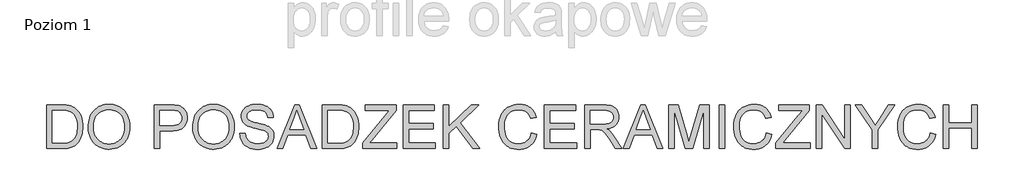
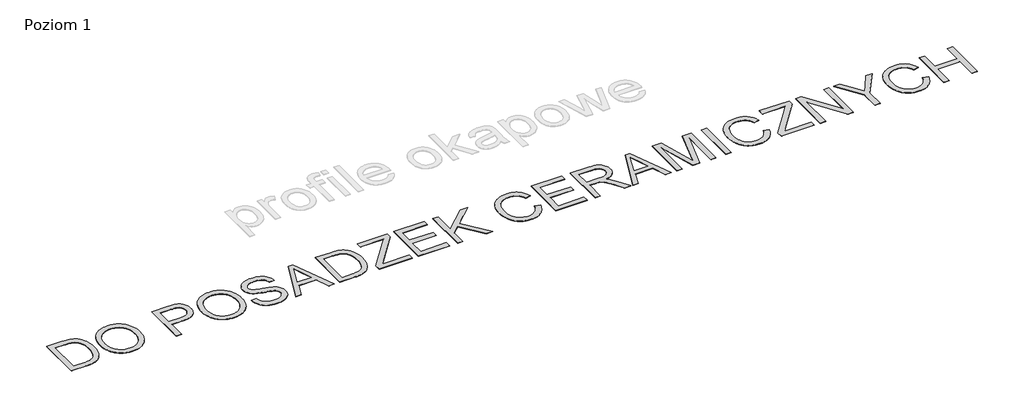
# One storey, part 2 of 4: 1 proxy.
"""IFC4 building model written with IfcOpenShell, lengths in millimetres."""

from ifc_helpers import new_model, si_unit, origin, origin_with_axes, place, context, project, spatial, polyline, outline, extrude, element, save

model = new_model("IFC4")

# Units and contexts
model_context = context("Model", 3, world=origin())
ifc_project = project(units=[si_unit("LENGTHUNIT", "METRE", prefix="MILLI")], contexts=[model_context])

# Site, building, storey
site = spatial("IfcSite", under=ifc_project)
building = spatial("IfcBuilding", under=site)
storey = spatial("IfcBuildingStorey", under=building, Name="Poziom 1", Elevation=0.0)

# Proxy
placement = place(None, origin())
element("IfcBuildingElementProxy", 1, Name="1500 mm Arial", ObjectType="1500 mm Arial", at=placement, inside=storey, context=model_context, shape_type="SweptSolid", body=[
    extrude(outline(polyline([(-116809.2331886, 69147.4976149), (-116809.2331886, 70654.3422672), (-116289.4159294, 70654.3422672), (-116134.077757, 70648.9160077), (-116072.0666482, 70642.1331835), (-116020.494191, 70632.6372295), (-115958.0922075, 70614.7259748), (-115900.3807195, 70590.7906525), (-115847.359727, 70560.8312625), (-115799.0292299, 70524.8478049), (-115743.1801445, 70470.9530926), (-115694.8266547, 70410.0686224), (-115653.9687606, 70342.1943943), (-115620.6064622, 70267.3304082), (-115594.6937742, 70186.1664431), (-115576.1847113, 70099.3922774), (-115565.0792736, 70007.0079114), (-115561.377461, 69909.0133449), (-115563.8836571, 69825.722562), (-115571.4022454, 69747.2832228), (-115583.9332258, 69673.6953275), (-115601.4765985, 69604.9588759), (-115622.9517099, 69541.5107281), (-115647.2779069, 69483.7877438), (-115674.4551893, 69431.789923), (-115704.4835571, 69385.5172658), (-115736.6732317, 69344.4179492), (-115770.3344342, 69307.9401501), (-115805.4671648, 69276.0838686), (-115842.0714233, 69248.8491046), (-115881.33133, 69225.4311163), (-115924.431005, 69205.0251619), (-115971.3704483, 69187.6312413), (-116022.1496599, 69173.2493546), (-116076.8146252, 69161.9829685), (-116135.4113292, 69153.9355498), (-116197.9397721, 69149.1070987), (-116264.3999538, 69147.4976149), (-116809.2331886, 69147.4976149)]), holes=[polyline([(-116620.8776071, 69335.8531965), (-116287.5765195, 69335.8531965), (-116214.4829655, 69337.5546507), (-116149.7127418, 69342.6590134), (-116093.2658481, 69351.1662845), (-116045.1422846, 69363.0764641), (-116003.4336634, 69378.090648), (-115966.2315967, 69395.9099322), (-115933.5360844, 69416.5343165), (-115905.3471265, 69439.9638011), (-115870.5937742, 69477.7291872), (-115839.9101166, 69521.4956483), (-115813.2961535, 69571.2631844), (-115790.751885, 69627.0317956), (-115772.8061414, 69688.916445), (-115759.9877531, 69757.0320957), (-115752.2967202, 69831.3787476), (-115749.7330425, 69911.9564009), (-115754.756931, 70021.309324), (-115769.8285965, 70117.2345542), (-115781.1323456, 70160.1617845), (-115794.948039, 70199.7320916), (-115811.2756766, 70235.9454755), (-115830.1152585, 70268.8019362), (-115872.4791695, 70326.0075865), (-115919.1886865, 70372.9125409), (-115970.2438097, 70409.5167994), (-116025.6445389, 70435.820362), (-116073.5151835, 70449.0181286), (-116133.9857865, 70458.4451047), (-116207.0563478, 70464.1012904), (-116292.7268674, 70465.9866856), (-116620.8776071, 70465.9866856), (-116620.8776071, 69335.8531965)])]), origin_with_axes(), (0.0, 0.0, 1.0), 10.0),
    extrude(outline(polyline([(-115373.0218795, 69881.0543133), (-115369.8833862, 69971.9614032), (-115360.4679064, 70057.7986194), (-115344.77544, 70138.5659618), (-115322.8059871, 70214.2634304), (-115294.5595477, 70284.8910254), (-115260.0361217, 70350.4487465), (-115219.2357092, 70410.936594), (-115172.1583101, 70466.3545676), (-115120.1202522, 70515.9324146), (-115064.4378634, 70558.899882), (-115005.1111435, 70595.2569699), (-114942.1400926, 70625.0036781), (-114875.5247107, 70648.1400067), (-114805.2649978, 70664.6659557), (-114731.3609538, 70674.5815251), (-114653.8125789, 70677.8867149), (-114602.4872924, 70676.3347127), (-114552.4380966, 70671.6787062), (-114503.6649914, 70663.9186954), (-114456.167977, 70653.0546802), (-114409.9470532, 70639.0866607), (-114365.00222, 70622.0146368), (-114321.3334776, 70601.8386087), (-114278.9408258, 70578.5585762), (-114238.4278211, 70552.5021842), (-114200.3980198, 70523.9970778), (-114164.851422, 70493.0432568), (-114131.7880277, 70459.6407212), (-114101.2078369, 70423.7894712), (-114073.1108495, 70385.4895066), (-114047.4970656, 70344.7408274), (-114024.3664851, 70301.5434338), (-113986.0607724, 70209.7108908), (-113958.699549, 70111.9002653), (-113942.282815, 70008.1115574), (-113936.8105703, 69898.3447671), (-113942.5702228, 69787.1294414), (-113959.8491802, 69681.9381834), (-113972.8083983, 69631.6015798), (-113988.6474427, 69582.7709931), (-114007.3663133, 69535.4464233), (-114028.9650101, 69489.6278704), (-114053.2049847, 69445.9303872), (-114079.8476885, 69404.9690263), (-114108.8931217, 69366.7437877), (-114140.3412841, 69331.2546715), (-114174.1921758, 69298.5016776), (-114210.4457968, 69268.4848061), (-114249.1021471, 69241.2040569), (-114290.1612267, 69216.65943), (-114376.3490803, 69176.1004401), (-114465.8708646, 69147.1297329), (-114558.7265794, 69129.7473087), (-114654.9162249, 69123.9531672), (-114707.1899571, 69125.5540287), (-114758.0611393, 69130.3566132), (-114807.5297713, 69138.3609207), (-114855.5958532, 69149.5669512), (-114902.2593851, 69163.9747046), (-114947.5203668, 69181.584181), (-114991.3787984, 69202.3953805), (-115033.8346799, 69226.4083029), (-115074.324692, 69253.1889625), (-115112.2855154, 69282.3033735), (-115147.71715, 69313.751536), (-115180.619596, 69347.5334498), (-115210.9928532, 69383.6491151), (-115238.8369217, 69422.0985317), (-115264.1518015, 69462.8816998), (-115286.9374926, 69505.9986192), (-115324.5994118, 69595.8652929), (-115351.5007827, 69688.3301331), (-115367.6416053, 69783.3931399), (-115373.0218795, 69881.0543133)]), holes=[polyline([(-115184.6662979, 69879.2149033), (-115182.312428, 69815.0252433), (-115175.2508181, 69754.3419586), (-115163.4814683, 69697.1650491), (-115147.0043787, 69643.4945149), (-115125.8195491, 69593.330356), (-115099.9269796, 69546.6725723), (-115069.3266702, 69503.5211639), (-115034.0186209, 69463.8761308), (-114995.1582111, 69428.3525256), (-114953.9008201, 69397.5654011), (-114910.2464481, 69371.5147574), (-114864.1950949, 69350.2005943), (-114815.7467606, 69333.6229119), (-114764.9014451, 69321.7817101), (-114711.6591485, 69314.6769891), (-114656.0198709, 69312.3087488), (-114599.3631695, 69314.6999817), (-114545.275894, 69321.8736806), (-114493.7580443, 69333.8298455), (-114444.8096204, 69350.5684763), (-114398.4306223, 69372.089573), (-114354.62105, 69398.3931356), (-114313.3809035, 69429.4791642), (-114274.7101829, 69465.3476588), (-114239.6608006, 69505.6134928), (-114209.2846693, 69549.8915398), (-114183.5817889, 69598.1817998), (-114162.5521596, 69650.4842728), (-114146.1957812, 69706.7989589), (-114134.5126538, 69767.1258579), (-114127.5027773, 69831.46497), (-114125.1661518, 69899.8162951), (-114129.1668685, 69986.0156451), (-114141.1690186, 70066.5588094), (-114161.1726021, 70141.445788), (-114189.177619, 70210.676581), (-114224.8736688, 70273.3429796), (-114267.9503512, 70328.5367752), (-114318.4076661, 70376.2579678), (-114376.2456135, 70416.5065573), (-114439.6707688, 70448.4548093), (-114506.8897071, 70471.2749893), (-114577.9024284, 70484.9670973), (-114652.7089329, 70489.5311333), (-114706.2070224, 70487.3324636), (-114757.8082204, 70480.7364544), (-114807.5125268, 70469.7431057), (-114855.3199417, 70454.3524175), (-114901.2304651, 70434.5643899), (-114945.2440969, 70410.3790228), (-114987.3608372, 70381.7963162), (-115027.580686, 70348.8162702), (-115064.3976263, 70310.6973725), (-115096.3056412, 70266.6981111), (-115123.3047308, 70216.8184859), (-115145.3948949, 70161.0584969), (-115162.5761337, 70099.4181442), (-115174.8484472, 70031.8974276), (-115182.2118352, 69958.4963474), (-115184.6662979, 69879.2149033)])]), origin_with_axes(), (0.0, 0.0, 1.0), 10.0),
    extrude(outline(polyline([(-113089.2104534, 69147.4976149), (-113089.2104534, 70654.3422672), (-112530.7655847, 70654.3422672), (-112400.7192994, 70650.7554177), (-112305.6218037, 70639.9948694), (-112253.2101157, 70628.6939943), (-112205.2360042, 70613.185469), (-112161.6994694, 70593.4692933), (-112122.6005111, 70569.5454673), (-112087.5252621, 70540.9196495), (-112056.0598552, 70507.0974986), (-112028.2042904, 70468.0790145), (-112003.9585676, 70423.8641972), (-111984.3228661, 70375.9130784), (-111970.2973651, 70325.6856897), (-111961.8820644, 70273.1820312), (-111959.0769642, 70218.4021029), (-111960.9709817, 70171.2269852), (-111966.6530341, 70125.9027737), (-111976.1231214, 70082.4294686), (-111989.3812436, 70040.8070697), (-112006.4274007, 70001.0355771), (-112027.2615928, 69963.1149909), (-112051.8838197, 69927.0453109), (-112080.2940816, 69892.8265372), (-112113.6477578, 69861.6140491), (-112153.1002277, 69834.5632262), (-112198.6514913, 69811.6740683), (-112250.3015486, 69792.9465755), (-112308.0503997, 69778.3807477), (-112371.8980444, 69767.976585), (-112441.8444828, 69761.7340874), (-112517.8897149, 69759.6532549), (-112900.8548719, 69759.6532549), (-112900.8548719, 69147.4976149), (-113089.2104534, 69147.4976149)]), holes=[polyline([(-112900.8548719, 69948.0088364), (-112506.853255, 69948.0088364), (-112416.2623137, 69952.3314499), (-112339.8348292, 69965.2992902), (-112306.9323833, 69975.0251705), (-112277.5708015, 69986.9123574), (-112251.750084, 70000.9608511), (-112229.4702307, 70017.1706515), (-112193.5787435, 70055.2694307), (-112167.941967, 70100.4039529), (-112152.5599011, 70152.5742184), (-112147.4325457, 70211.780227), (-112150.4560759, 70255.7421254), (-112159.5266663, 70296.3930859), (-112174.6443171, 70333.7331084), (-112195.8090281, 70367.7621929), (-112221.8941608, 70397.3766935), (-112251.7730766, 70421.4729642), (-112285.4457755, 70440.051005), (-112322.9122574, 70453.1108158), (-112395.5689515, 70462.7677182), (-112511.267839, 70465.9866856), (-112900.8548719, 70465.9866856), (-112900.8548719, 69948.0088364)])]), origin_with_axes(), (0.0, 0.0, 1.0), 10.0),
    extrude(outline(polyline([(-111770.7213827, 69881.0543133), (-111767.5828894, 69971.9614032), (-111758.1674096, 70057.7986194), (-111742.4749432, 70138.5659618), (-111720.5054903, 70214.2634304), (-111692.2590509, 70284.8910254), (-111657.7356249, 70350.4487465), (-111616.9352124, 70410.936594), (-111569.8578133, 70466.3545676), (-111517.8197555, 70515.9324146), (-111462.1373666, 70558.899882), (-111402.8106467, 70595.2569699), (-111339.8395958, 70625.0036781), (-111273.2242139, 70648.1400067), (-111202.964501, 70664.6659557), (-111129.0604571, 70674.5815251), (-111051.5120821, 70677.8867149), (-111000.1867956, 70676.3347127), (-110950.1375998, 70671.6787062), (-110901.3644947, 70663.9186954), (-110853.8674802, 70653.0546802), (-110807.6465564, 70639.0866607), (-110762.7017233, 70622.0146368), (-110719.0329808, 70601.8386087), (-110676.640329, 70578.5585762), (-110636.1273243, 70552.5021842), (-110598.0975231, 70523.9970778), (-110562.5509253, 70493.0432568), (-110529.487531, 70459.6407212), (-110498.9073401, 70423.7894712), (-110470.8103527, 70385.4895066), (-110445.1965688, 70344.7408274), (-110422.0659884, 70301.5434338), (-110383.7602756, 70209.7108908), (-110356.3990522, 70111.9002653), (-110339.9823182, 70008.1115574), (-110334.5100735, 69898.3447671), (-110340.269726, 69787.1294414), (-110357.5486835, 69681.9381834), (-110370.5079016, 69631.6015798), (-110386.3469459, 69582.7709931), (-110405.0658165, 69535.4464233), (-110426.6645133, 69489.6278704), (-110450.9044879, 69445.9303872), (-110477.5471918, 69404.9690263), (-110506.5926249, 69366.7437877), (-110538.0407873, 69331.2546715), (-110571.8916791, 69298.5016776), (-110608.1453001, 69268.4848061), (-110646.8016503, 69241.2040569), (-110687.8607299, 69216.65943), (-110774.0485836, 69176.1004401), (-110863.5703678, 69147.1297329), (-110956.4260827, 69129.7473087), (-111052.6157281, 69123.9531672), (-111104.8894604, 69125.5540287), (-111155.7606425, 69130.3566132), (-111205.2292745, 69138.3609207), (-111253.2953565, 69149.5669512), (-111299.9588883, 69163.9747046), (-111345.21987, 69181.584181), (-111389.0783016, 69202.3953805), (-111431.5341831, 69226.4083029), (-111472.0241952, 69253.1889625), (-111509.9850186, 69282.3033735), (-111545.4166533, 69313.751536), (-111578.3190992, 69347.5334498), (-111608.6923564, 69383.6491151), (-111636.5364249, 69422.0985317), (-111661.8513047, 69462.8816998), (-111684.6369958, 69505.9986192), (-111722.2989151, 69595.8652929), (-111749.200286, 69688.3301331), (-111765.3411085, 69783.3931399), (-111770.7213827, 69881.0543133)]), holes=[polyline([(-111582.3658012, 69879.2149033), (-111580.0119312, 69815.0252433), (-111572.9503213, 69754.3419586), (-111561.1809716, 69697.1650491), (-111544.7038819, 69643.4945149), (-111523.5190523, 69593.330356), (-111497.6264828, 69546.6725723), (-111467.0261734, 69503.5211639), (-111431.7181241, 69463.8761308), (-111392.8577143, 69428.3525256), (-111351.6003234, 69397.5654011), (-111307.9459513, 69371.5147574), (-111261.8945981, 69350.2005943), (-111213.4462638, 69333.6229119), (-111162.6009483, 69321.7817101), (-111109.3586518, 69314.6769891), (-111053.7193741, 69312.3087488), (-110997.0626728, 69314.6999817), (-110942.9753972, 69321.8736806), (-110891.4575475, 69333.8298455), (-110842.5091236, 69350.5684763), (-110796.1301255, 69372.089573), (-110752.3205532, 69398.3931356), (-110711.0804068, 69429.4791642), (-110672.4096861, 69465.3476588), (-110637.3603038, 69505.6134928), (-110606.9841725, 69549.8915398), (-110581.2812922, 69598.1817998), (-110560.2516628, 69650.4842728), (-110543.8952844, 69706.7989589), (-110532.212157, 69767.1258579), (-110525.2022805, 69831.46497), (-110522.865655, 69899.8162951), (-110526.8663717, 69986.0156451), (-110538.8685218, 70066.5588094), (-110558.8721053, 70141.445788), (-110586.8771222, 70210.676581), (-110622.5731721, 70273.3429796), (-110665.6498544, 70328.5367752), (-110716.1071693, 70376.2579678), (-110773.9451168, 70416.5065573), (-110837.370272, 70448.4548093), (-110904.5892103, 70471.2749893), (-110975.6019317, 70484.9670973), (-111050.4084361, 70489.5311333), (-111103.9065256, 70487.3324636), (-111155.5077236, 70480.7364544), (-111205.2120301, 70469.7431057), (-111253.019445, 70454.3524175), (-111298.9299683, 70434.5643899), (-111342.9436002, 70410.3790228), (-111385.0603405, 70381.7963162), (-111425.2801892, 70348.8162702), (-111462.0971295, 70310.6973725), (-111494.0051444, 70266.6981111), (-111521.004234, 70216.8184859), (-111543.0943982, 70161.0584969), (-111560.275637, 70099.4181442), (-111572.5479504, 70031.8974276), (-111579.9113385, 69958.4963474), (-111582.3658012, 69879.2149033)])]), origin_with_axes(), (0.0, 0.0, 1.0), 10.0),
    extrude(outline(polyline([(-110146.154492, 69665.4754641), (-109957.7989105, 69665.4754641), (-109949.1766762, 69610.6495505), (-109936.1858432, 69560.9509923), (-109918.8264116, 69516.3797893), (-109897.0983813, 69476.9359416), (-109869.8981062, 69441.8262037), (-109836.1219405, 69410.25733), (-109795.7698842, 69382.2293205), (-109748.8419372, 69357.7421752), (-109697.0625464, 69337.8650511), (-109642.1561586, 69323.6671054), (-109584.1227739, 69315.1483379), (-109522.9623922, 69312.3087488), (-109468.8607462, 69314.4585592), (-109418.024053, 69320.9079904), (-109370.4523125, 69331.6570425), (-109326.1455247, 69346.7057153), (-109286.1958393, 69365.5136823), (-109251.695406, 69387.5406168), (-109222.6442247, 69412.7865187), (-109199.0422954, 69441.2513881), (-109180.7746551, 69471.7051195), (-109167.7263406, 69502.9176075), (-109159.8973519, 69534.8888522), (-109157.2876889, 69567.6188534), (-109159.242062, 69600.2108989), (-109165.1051813, 69630.6646303), (-109174.8770468, 69658.9800477), (-109188.5576585, 69685.1571509), (-109208.2853305, 69709.3338957), (-109236.1983769, 69731.648238), (-109272.2967977, 69752.1001777), (-109316.5805929, 69770.6897148), (-109416.0466873, 69800.2582301), (-109590.8366203, 69842.6106448), (-109688.9576462, 69866.6954192), (-109770.8688717, 69890.2053779), (-109836.5702967, 69913.1405211), (-109886.0619214, 69935.5008486), (-109936.3582879, 69965.5062238), (-109979.8258449, 69998.8685223), (-110016.4645924, 70035.5877439), (-110046.2745303, 70075.6638888), (-110069.3706218, 70118.6830896), (-110085.86783, 70164.2314791), (-110095.766155, 70212.3090573), (-110099.0655966, 70262.9158243), (-110094.9844057, 70319.0063323), (-110082.7408331, 70373.2344376), (-110062.3348786, 70425.6001404), (-110033.7665425, 70476.1034405), (-109997.3577212, 70522.6864981), (-109953.4303118, 70563.2914734), (-109901.984314, 70597.9183662), (-109843.019728, 70626.5671765), (-109778.5254157, 70649.0194746), (-109710.4902392, 70665.0568303), (-109638.9141985, 70674.6792437), (-109563.7972936, 70677.8867149), (-109481.8515792, 70674.5297917), (-109404.8722717, 70664.459022), (-109332.8593711, 70647.674406), (-109265.8128775, 70624.1759436), (-109204.9743926, 70594.1705683), (-109151.585518, 70557.8652139), (-109105.6462539, 70515.2598804), (-109067.1566001, 70466.3545676), (-109036.4154609, 70412.5748185), (-109013.7217403, 70355.3461756), (-108999.0754384, 70294.668639), (-108992.4765551, 70230.5422087), (-109180.8321366, 70230.5422087), (-109193.432095, 70290.6449297), (-109215.4130442, 70342.9301583), (-109246.7749843, 70387.3978944), (-109287.5179152, 70424.0481382), (-109338.4005937, 70452.6969486), (-109400.1817763, 70473.1603845), (-109472.8614629, 70485.4384461), (-109556.4396537, 70489.5311333), (-109642.684989, 70485.4844314), (-109716.3763511, 70473.3443255), (-109777.5137402, 70453.1108158), (-109803.3746948, 70439.9590345), (-109826.0971562, 70424.7839022), (-109863.1152819, 70390.731825), (-109889.5568003, 70353.3228246), (-109905.4217114, 70312.556901), (-109910.7100151, 70268.4340542), (-109906.9622172, 70230.4732309), (-109895.7188238, 70196.0532717), (-109876.9798346, 70165.1741767), (-109850.7452499, 70137.8359459), (-109809.4504959, 70111.9462505), (-109744.4273533, 70085.7806436), (-109655.6758219, 70059.3391252), (-109543.1959019, 70032.6216953), (-109429.1064981, 70006.5710515), (-109335.5265156, 69982.1298915), (-109262.4559543, 69959.2982152), (-109209.8948143, 69938.0760226), (-109152.1488373, 69905.9093406), (-109102.5192569, 69869.741942), (-109061.006073, 69829.5738266), (-109027.6092857, 69785.4049946), (-109001.9380202, 69737.4653721), (-108983.601402, 69685.9848854), (-108972.5994311, 69630.9635345), (-108968.9321074, 69572.4013194), (-108973.1512541, 69513.4827186), (-108985.8086939, 69456.2885646), (-109006.9044271, 69400.8188575), (-109036.4384535, 69347.0735973), (-109073.8934392, 69297.1336165), (-109118.75205, 69253.0797475), (-109171.0142859, 69214.9119905), (-109230.680147, 69182.6303455), (-109296.0136901, 69156.95908), (-109365.278972, 69138.6224618), (-109438.4759927, 69127.6204909), (-109515.6047523, 69123.9531672), (-109611.9553461, 69127.9078987), (-109700.1435581, 69139.772093), (-109780.1693883, 69159.5457503), (-109852.0328368, 69187.2288704), (-109916.1707634, 69222.8674387), (-109973.020028, 69266.5074404), (-110022.5806305, 69318.1488754), (-110064.8525711, 69377.7917439), (-110098.9046482, 69443.5046653), (-110123.8056608, 69513.3562591), (-110139.5556087, 69587.3465254), (-110146.154492, 69665.4754641)])), origin_with_axes(), (0.0, 0.0, 1.0), 10.0),
    extrude(outline(polyline([(-108861.8784468, 69147.4976149), (-108260.3913847, 70654.3422672), (-108099.9948348, 70654.3422672), (-107498.5077727, 69147.4976149), (-107697.5319321, 69147.4976149), (-107870.0685878, 69618.3865688), (-108490.6855137, 69618.3865688), (-108662.8542874, 69147.4976149), (-108861.8784468, 69147.4976149)]), holes=[polyline([(-108421.5236986, 69806.7421503), (-107938.8625209, 69806.7421503), (-108074.6109771, 70177.1993194), (-108180.1931098, 70465.9866856), (-108274.0030185, 70209.572935), (-108421.5236986, 69806.7421503)])]), origin_with_axes(), (0.0, 0.0, 1.0), 10.0),
    extrude(outline(polyline([(-107297.2763213, 69147.4976149), (-107297.2763213, 70654.3422672), (-106777.4590622, 70654.3422672), (-106622.1208897, 70648.9160077), (-106560.1097809, 70642.1331835), (-106508.5373237, 70632.6372295), (-106446.1353402, 70614.7259748), (-106388.4238523, 70590.7906525), (-106335.4028597, 70560.8312625), (-106287.0723626, 70524.8478049), (-106231.2232772, 70470.9530926), (-106182.8697874, 70410.0686224), (-106142.0118934, 70342.1943943), (-106108.6495949, 70267.3304082), (-106082.7369069, 70186.1664431), (-106064.227844, 70099.3922774), (-106053.1224063, 70007.0079114), (-106049.4205937, 69909.0133449), (-106051.9267898, 69825.722562), (-106059.4453781, 69747.2832228), (-106071.9763585, 69673.6953275), (-106089.5197312, 69604.9588759), (-106110.9948426, 69541.5107281), (-106135.3210396, 69483.7877438), (-106162.498322, 69431.789923), (-106192.5266898, 69385.5172658), (-106224.7163644, 69344.4179492), (-106258.377567, 69307.9401501), (-106293.5102975, 69276.0838686), (-106330.114556, 69248.8491046), (-106369.3744627, 69225.4311163), (-106412.4741377, 69205.0251619), (-106459.413581, 69187.6312413), (-106510.1927927, 69173.2493546), (-106564.8577579, 69161.9829685), (-106623.4544619, 69153.9355498), (-106685.9829048, 69149.1070987), (-106752.4430865, 69147.4976149), (-107297.2763213, 69147.4976149)]), holes=[polyline([(-107108.9207398, 69335.8531965), (-106775.6196522, 69335.8531965), (-106702.5260983, 69337.5546507), (-106637.7558745, 69342.6590134), (-106581.3089808, 69351.1662845), (-106533.1854174, 69363.0764641), (-106491.4767962, 69378.090648), (-106454.2747294, 69395.9099322), (-106421.5792171, 69416.5343165), (-106393.3902592, 69439.9638011), (-106358.636907, 69477.7291872), (-106327.9532493, 69521.4956483), (-106301.3392862, 69571.2631844), (-106278.7950177, 69627.0317956), (-106260.8492741, 69688.916445), (-106248.0308858, 69757.0320957), (-106240.3398529, 69831.3787476), (-106237.7761752, 69911.9564009), (-106242.8000637, 70021.309324), (-106257.8717292, 70117.2345542), (-106269.1754783, 70160.1617845), (-106282.9911717, 70199.7320916), (-106299.3188093, 70235.9454755), (-106318.1583912, 70268.8019362), (-106360.5223022, 70326.0075865), (-106407.2318193, 70372.9125409), (-106458.2869424, 70409.5167994), (-106513.6876716, 70435.820362), (-106561.5583162, 70449.0181286), (-106622.0289192, 70458.4451047), (-106695.0994805, 70464.1012904), (-106780.7700001, 70465.9866856), (-107108.9207398, 70465.9866856), (-107108.9207398, 69335.8531965)])]), origin_with_axes(), (0.0, 0.0, 1.0), 10.0),
    extrude(outline(polyline([(-105908.1539075, 69147.4976149), (-105908.1539075, 69342.8429544), (-105137.4411277, 70286.460272), (-104991.0240936, 70465.9866856), (-105813.9761168, 70465.9866856), (-105813.9761168, 70654.3422672), (-104754.4759707, 70654.3422672), (-104754.4759707, 70465.9866856), (-105598.0293856, 69433.3419252), (-105677.4918966, 69335.8531965), (-104730.931523, 69335.8531965), (-104730.931523, 69147.4976149), (-105908.1539075, 69147.4976149)])), origin_with_axes(), (0.0, 0.0, 1.0), 10.0),
    extrude(outline(polyline([(-104519.0314938, 69147.4976149), (-104519.0314938, 70654.3422672), (-103435.9869, 70654.3422672), (-103435.9869, 70465.9866856), (-104330.6759122, 70465.9866856), (-104330.6759122, 70018.6421795), (-103483.0757953, 70018.6421795), (-103483.0757953, 69830.286598), (-104330.6759122, 69830.286598), (-104330.6759122, 69335.8531965), (-103412.4424523, 69335.8531965), (-103412.4424523, 69147.4976149), (-104519.0314938, 69147.4976149)])), origin_with_axes(), (0.0, 0.0, 1.0), 10.0),
    extrude(outline(polyline([(-103129.90908, 69147.4976149), (-103129.90908, 70654.3422672), (-102941.5534984, 70654.3422672), (-102941.5534984, 69916.7388668), (-102169.0013086, 70654.3422672), (-101905.5978, 70654.3422672), (-102554.1737575, 70034.8289873), (-101882.0533523, 69147.4976149), (-102112.3474813, 69147.4976149), (-102687.7149218, 69907.541817), (-102941.5534984, 69665.4754641), (-102941.5534984, 69147.4976149), (-103129.90908, 69147.4976149)])), origin_with_axes(), (0.0, 0.0, 1.0), 10.0),
    extrude(outline(polyline([(-100092.6753278, 69683.1337999), (-99904.3197463, 69634.5733765), (-99921.4090146, 69574.1573811), (-99941.5907909, 69517.43745), (-99964.8650753, 69464.4135834), (-99991.2318676, 69415.0857812), (-100020.691168, 69369.4540434), (-100053.2429764, 69327.51837), (-100088.8872929, 69289.2787611), (-100127.6241173, 69254.7352165), (-100169.0338344, 69224.0831737), (-100212.6968287, 69197.51807), (-100258.6131002, 69175.0399052), (-100306.782649, 69156.6486796), (-100357.205475, 69142.3443929), (-100409.8815781, 69132.1270453), (-100464.8109585, 69125.9966368), (-100521.9936162, 69123.9531672), (-100580.8288687, 69125.4994212), (-100636.8532728, 69130.1381833), (-100690.0668286, 69137.8694533), (-100740.4695361, 69148.6932314), (-100788.0613951, 69162.6095175), (-100832.8424058, 69179.6183116), (-100874.8125681, 69199.7196138), (-100913.971882, 69222.9134239), (-100950.5991332, 69249.0387938), (-100984.9731071, 69277.9347748), (-101017.0938038, 69309.6013672), (-101046.9612233, 69344.0385709), (-101074.5753655, 69381.2463858), (-101099.9362306, 69421.224812), (-101123.0438184, 69463.9738494), (-101143.898129, 69509.4934982), (-101178.421555, 69605.0278538), (-101203.081145, 69704.0111031), (-101217.876899, 69806.4432462), (-101222.808817, 69912.3242829), (-101217.2331055, 70025.9308415), (-101200.505971, 70132.0418045), (-101187.9606202, 70182.2864376), (-101172.6274136, 70230.6571719), (-101154.5063512, 70277.1540071), (-101133.5974331, 70321.7769435), (-101110.1190893, 70364.1494768), (-101084.2897495, 70403.8951026), (-101056.1094138, 70441.0138211), (-101025.5780823, 70475.5056323), (-100992.6957549, 70507.370536), (-100957.4624316, 70536.6085324), (-100919.8781125, 70563.2196214), (-100879.9427975, 70587.2038031), (-100795.6518353, 70626.877577), (-100707.2222007, 70655.2159869), (-100614.6538937, 70672.2190329), (-100517.9469142, 70677.8867149), (-100462.9629263, 70676.053053), (-100410.2149712, 70670.5520676), (-100359.7030488, 70661.3837585), (-100311.4271592, 70648.5481257), (-100265.3873023, 70632.0451694), (-100221.5834782, 70611.8748894), (-100180.0156868, 70588.0372857), (-100140.6839282, 70560.5323584), (-100103.9215953, 70529.6992487), (-100070.0620814, 70495.8770977), (-100039.1053863, 70459.0659056), (-100011.0515101, 70419.2656723), (-99985.9004528, 70376.4763977), (-99963.6522143, 70330.6980819), (-99944.3067947, 70281.9307249), (-99927.864194, 70230.1743267), (-100116.2197755, 70185.2927233), (-100145.8802613, 70259.3634638), (-100181.5188296, 70322.6506633), (-100223.1354803, 70375.1543218), (-100270.7302135, 70416.8744393), (-100324.5789405, 70448.6617429), (-100384.957573, 70471.3669598), (-100451.8661108, 70484.99009), (-100525.3045541, 70489.5311333), (-100609.8024499, 70484.4957485), (-100687.0806615, 70469.3895941), (-100757.139189, 70444.2126701), (-100819.9780323, 70408.9649764), (-100874.8039459, 70365.2330042), (-100920.8236842, 70314.6032446), (-100958.0372473, 70257.0756976), (-100986.4446351, 70192.6503632), (-101007.4483977, 70124.2473047), (-101022.4510854, 70054.7865855), (-101031.4526979, 69984.2682056), (-101034.4532354, 69912.6921649), (-101030.9008749, 69822.7450171), (-101020.2437934, 69738.6839812), (-101002.4819908, 69660.5090572), (-100977.6154672, 69588.2202451), (-100945.2418516, 69523.2545841), (-100904.9587731, 69467.049113), (-100856.7662318, 69419.6038319), (-100800.6642275, 69380.9187409), (-100739.3773864, 69350.9018693), (-100675.6303344, 69329.4612468), (-100609.4230716, 69316.5968733), (-100540.7555979, 69312.3087488), (-100458.8673651, 69318.1488754), (-100420.3805854, 69325.4490338), (-100383.5320302, 69335.6692555), (-100348.3216996, 69348.8095405), (-100314.7495934, 69364.8698888), (-100282.8157118, 69383.8503005), (-100252.5200547, 69405.7507755), (-100224.2305041, 69430.5253287), (-100198.314942, 69458.1279746), (-100174.7733684, 69488.5587134), (-100153.6057832, 69521.817545), (-100134.8121866, 69557.9044695), (-100118.3925785, 69596.8194868), (-100092.6753278, 69683.1337999)])), origin_with_axes(), (0.0, 0.0, 1.0), 10.0),
    extrude(outline(polyline([(-99645.3308217, 69147.4976149), (-99645.3308217, 70654.3422672), (-98562.2862279, 70654.3422672), (-98562.2862279, 70465.9866856), (-99456.9752401, 70465.9866856), (-99456.9752401, 70018.6421795), (-98609.3751232, 70018.6421795), (-98609.3751232, 69830.286598), (-99456.9752401, 69830.286598), (-99456.9752401, 69335.8531965), (-98538.7417802, 69335.8531965), (-98538.7417802, 69147.4976149), (-99645.3308217, 69147.4976149)])), origin_with_axes(), (0.0, 0.0, 1.0), 10.0),
    extrude(outline(polyline([(-98256.2084079, 69147.4976149), (-98256.2084079, 70654.3422672), (-97606.8966864, 70654.3422672), (-97513.6960822, 70651.8015821), (-97432.3826649, 70644.1795271), (-97362.9564346, 70631.4761019), (-97305.4173913, 70613.6913067), (-97256.4201081, 70589.4570803), (-97212.6191581, 70557.4053614), (-97174.0145412, 70517.5361502), (-97140.6062575, 70469.8494466), (-97113.647405, 70416.9089282), (-97094.3910819, 70361.2782728), (-97082.8372879, 70302.9574802), (-97078.9860233, 70241.9465506), (-97080.5811366, 70202.4567177), (-97085.3664767, 70164.5533758), (-97093.3420434, 70128.2365251), (-97104.5078367, 70093.5061655), (-97118.8638568, 70060.362297), (-97136.4101035, 70028.8049196), (-97157.1465769, 69998.8340333), (-97181.073277, 69970.4496381), (-97208.3339076, 69944.1173347), (-97239.0721728, 69920.3027237), (-97273.2880724, 69899.005805), (-97310.9816065, 69880.2265788), (-97352.1527751, 69863.965045), (-97396.8015782, 69850.2212036), (-97496.5320878, 69830.286598), (-97434.4520011, 69789.727608), (-97389.4784272, 69749.720441), (-97312.3151787, 69658.2097947), (-97236.8073992, 69555.8466296), (-96985.5439965, 69147.4976149), (-97204.4337837, 69147.4976149), (-97400.5148871, 69459.8294288), (-97478.9657226, 69579.0231953), (-97542.1494552, 69666.5791101), (-97594.8025658, 69726.8657721), (-97618.956318, 69748.4213577), (-97641.6615349, 69764.2517798), (-97686.0373006, 69786.1867438), (-97731.2408008, 69800.1202744), (-97775.2946697, 69805.0866813), (-97840.5017533, 69806.7421503), (-98067.8528263, 69806.7421503), (-98067.8528263, 69147.4976149), (-98256.2084079, 69147.4976149)]), holes=[polyline([(-98067.8528263, 69995.0977318), (-97646.2600599, 69995.0977318), (-97582.3290669, 69996.7646971), (-97525.1808982, 70001.765593), (-97474.8155538, 70010.1004194), (-97431.2330337, 70021.7691765), (-97393.4561513, 70037.1052571), (-97360.5077201, 70056.4420545), (-97332.3877401, 70079.7795686), (-97309.0962113, 70107.1177993), (-97290.828571, 70137.1116783), (-97277.7802564, 70168.4161368), (-97269.9512677, 70201.0311749), (-97267.3416048, 70234.9567927), (-97272.3195081, 70283.1263414), (-97287.2532178, 70326.835321), (-97312.1427341, 70366.0837313), (-97346.9880568, 70400.8715725), (-97368.3453311, 70416.1329271), (-97392.5939279, 70429.3594345), (-97449.7650892, 70449.7079074), (-97518.5015407, 70461.9169911), (-97598.8032825, 70465.9866856), (-98067.8528263, 70465.9866856), (-98067.8528263, 69995.0977318)])]), origin_with_axes(), (0.0, 0.0, 1.0), 10.0),
    extrude(outline(polyline([(-96924.8434673, 69147.4976149), (-96323.3564052, 70654.3422672), (-96162.9598553, 70654.3422672), (-95561.4727932, 69147.4976149), (-95760.4969526, 69147.4976149), (-95933.0336083, 69618.3865688), (-96553.6505342, 69618.3865688), (-96725.8193079, 69147.4976149), (-96924.8434673, 69147.4976149)]), holes=[polyline([(-96484.4887191, 69806.7421503), (-96001.8275414, 69806.7421503), (-96137.5759976, 70177.1993194), (-96243.1581303, 70465.9866856), (-96336.968039, 70209.572935), (-96484.4887191, 69806.7421503)])]), origin_with_axes(), (0.0, 0.0, 1.0), 10.0),
    extrude(outline(polyline([(-95360.2413418, 69147.4976149), (-95360.2413418, 70654.3422672), (-95036.1373041, 70654.3422672), (-94727.8521921, 69592.2669471), (-94665.6801349, 69370.434104), (-94598.3577298, 69610.6610469), (-94295.2229658, 70654.3422672), (-93971.1189281, 70654.3422672), (-93971.1189281, 69147.4976149), (-94159.4745096, 69147.4976149), (-94159.4745096, 70465.9866856), (-94538.0250826, 69147.4976149), (-94793.3351873, 69147.4976149), (-95171.8857603, 70465.9866856), (-95171.8857603, 69147.4976149), (-95360.2413418, 69147.4976149)])), origin_with_axes(), (0.0, 0.0, 1.0), 10.0),
    extrude(outline(polyline([(-93617.9522127, 69147.4976149), (-93617.9522127, 70654.3422672), (-93429.5966312, 70654.3422672), (-93429.5966312, 69147.4976149), (-93617.9522127, 69147.4976149)])), origin_with_axes(), (0.0, 0.0, 1.0), 10.0),
    extrude(outline(polyline([(-91993.385322, 69683.1337999), (-91805.0297405, 69634.5733765), (-91822.1190088, 69574.1573811), (-91842.3007851, 69517.43745), (-91865.5750694, 69464.4135834), (-91891.9418618, 69415.0857812), (-91921.4011622, 69369.4540434), (-91953.9529706, 69327.51837), (-91989.5972871, 69289.2787611), (-92028.3341115, 69254.7352165), (-92069.7438286, 69224.0831737), (-92113.4068229, 69197.51807), (-92159.3230944, 69175.0399052), (-92207.4926432, 69156.6486796), (-92257.9154691, 69142.3443929), (-92310.5915723, 69132.1270453), (-92365.5209527, 69125.9966368), (-92422.7036104, 69123.9531672), (-92481.5388629, 69125.4994212), (-92537.563267, 69130.1381833), (-92590.7768228, 69137.8694533), (-92641.1795302, 69148.6932314), (-92688.7713893, 69162.6095175), (-92733.5524, 69179.6183116), (-92775.5225623, 69199.7196138), (-92814.6818762, 69222.9134239), (-92851.3091274, 69249.0387938), (-92885.6831013, 69277.9347748), (-92917.803798, 69309.6013672), (-92947.6712175, 69344.0385709), (-92975.2853597, 69381.2463858), (-93000.6462248, 69421.224812), (-93023.7538126, 69463.9738494), (-93044.6081232, 69509.4934982), (-93079.1315492, 69605.0278538), (-93103.7911392, 69704.0111031), (-93118.5868932, 69806.4432462), (-93123.5188112, 69912.3242829), (-93117.9430997, 70025.9308415), (-93101.2159652, 70132.0418045), (-93088.6706144, 70182.2864376), (-93073.3374078, 70230.6571719), (-93055.2163454, 70277.1540071), (-93034.3074273, 70321.7769435), (-93010.8290834, 70364.1494768), (-92984.9997437, 70403.8951026), (-92956.819408, 70441.0138211), (-92926.2880765, 70475.5056323), (-92893.4057491, 70507.370536), (-92858.1724258, 70536.6085324), (-92820.5881067, 70563.2196214), (-92780.6527917, 70587.2038031), (-92696.3618295, 70626.877577), (-92607.9321949, 70655.2159869), (-92515.3638879, 70672.2190329), (-92418.6569084, 70677.8867149), (-92363.6729205, 70676.053053), (-92310.9249654, 70670.5520676), (-92260.413043, 70661.3837585), (-92212.1371534, 70648.5481257), (-92166.0972965, 70632.0451694), (-92122.2934724, 70611.8748894), (-92080.725681, 70588.0372857), (-92041.3939224, 70560.5323584), (-92004.6315895, 70529.6992487), (-91970.7720756, 70495.8770977), (-91939.8153805, 70459.0659056), (-91911.7615043, 70419.2656723), (-91886.610447, 70376.4763977), (-91864.3622085, 70330.6980819), (-91845.0167889, 70281.9307249), (-91828.5741881, 70230.1743267), (-92016.9297697, 70185.2927233), (-92046.5902555, 70259.3634638), (-92082.2288238, 70322.6506633), (-92123.8454745, 70375.1543218), (-92171.4402076, 70416.8744393), (-92225.2889347, 70448.6617429), (-92285.6675671, 70471.3669598), (-92352.576105, 70484.99009), (-92426.0145483, 70489.5311333), (-92510.5124441, 70484.4957485), (-92587.7906557, 70469.3895941), (-92657.8491831, 70444.2126701), (-92720.6880264, 70408.9649764), (-92775.51394, 70365.2330042), (-92821.5336784, 70314.6032446), (-92858.7472414, 70257.0756976), (-92887.1546293, 70192.6503632), (-92908.1583919, 70124.2473047), (-92923.1610795, 70054.7865855), (-92932.1626921, 69984.2682056), (-92935.1632296, 69912.6921649), (-92931.6108691, 69822.7450171), (-92920.9537876, 69738.6839812), (-92903.191985, 69660.5090572), (-92878.3254614, 69588.2202451), (-92845.9518458, 69523.2545841), (-92805.6687673, 69467.049113), (-92757.476226, 69419.6038319), (-92701.3742217, 69380.9187409), (-92640.0873806, 69350.9018693), (-92576.3403286, 69329.4612468), (-92510.1330658, 69316.5968733), (-92441.4655921, 69312.3087488), (-92359.5773592, 69318.1488754), (-92321.0905796, 69325.4490338), (-92284.2420244, 69335.6692555), (-92249.0316938, 69348.8095405), (-92215.4595876, 69364.8698888), (-92183.525706, 69383.8503005), (-92153.2300489, 69405.7507755), (-92124.9404983, 69430.5253287), (-92099.0249362, 69458.1279746), (-92075.4833625, 69488.5587134), (-92054.3157774, 69521.817545), (-92035.5221808, 69557.9044695), (-92019.1025727, 69596.8194868), (-91993.385322, 69683.1337999)])), origin_with_axes(), (0.0, 0.0, 1.0), 10.0),
    extrude(outline(polyline([(-91663.7630543, 69147.4976149), (-91663.7630543, 69342.8429544), (-90893.0502744, 70286.460272), (-90746.6332403, 70465.9866856), (-91569.5852635, 70465.9866856), (-91569.5852635, 70654.3422672), (-90510.0851174, 70654.3422672), (-90510.0851174, 70465.9866856), (-91353.6385324, 69433.3419252), (-91433.1010433, 69335.8531965), (-90486.5406697, 69335.8531965), (-90486.5406697, 69147.4976149), (-91663.7630543, 69147.4976149)])), origin_with_axes(), (0.0, 0.0, 1.0), 10.0),
    extrude(outline(polyline([(-90274.6406405, 69147.4976149), (-90274.6406405, 70654.3422672), (-90073.0413072, 70654.3422672), (-89285.7738375, 69460.5651928), (-89285.7738375, 70654.3422672), (-89097.4182559, 70654.3422672), (-89097.4182559, 69147.4976149), (-89299.0175893, 69147.4976149), (-90086.285059, 70341.6425713), (-90086.285059, 69147.4976149), (-90274.6406405, 69147.4976149)])), origin_with_axes(), (0.0, 0.0, 1.0), 10.0),
    extrude(outline(polyline([(-88343.9959298, 69147.4976149), (-88343.9959298, 69785.7728766), (-88932.6071221, 70654.3422672), (-88710.406397, 70654.3422672), (-88396.2351731, 70190.4430713), (-88235.4707413, 69953.8949484), (-88074.3384274, 70207.365643), (-87789.2298811, 70654.3422672), (-87567.029156, 70654.3422672), (-88155.6403483, 69785.7728766), (-88155.6403483, 69147.4976149), (-88343.9959298, 69147.4976149)])), origin_with_axes(), (0.0, 0.0, 1.0), 10.0),
    extrude(outline(polyline([(-86342.7178761, 69683.1337999), (-86154.3622945, 69634.5733765), (-86171.4515628, 69574.1573811), (-86191.6333392, 69517.43745), (-86214.9076235, 69464.4135834), (-86241.2744159, 69415.0857812), (-86270.7337163, 69369.4540434), (-86303.2855247, 69327.51837), (-86338.9298411, 69289.2787611), (-86377.6666656, 69254.7352165), (-86419.0763827, 69224.0831737), (-86462.739377, 69197.51807), (-86508.6556485, 69175.0399052), (-86556.8251973, 69156.6486796), (-86607.2480232, 69142.3443929), (-86659.9241264, 69132.1270453), (-86714.8535068, 69125.9966368), (-86772.0361644, 69123.9531672), (-86830.871417, 69125.4994212), (-86886.8958211, 69130.1381833), (-86940.1093769, 69137.8694533), (-86990.5120843, 69148.6932314), (-87038.1039434, 69162.6095175), (-87082.884954, 69179.6183116), (-87124.8551164, 69199.7196138), (-87164.0144303, 69222.9134239), (-87200.6416814, 69249.0387938), (-87235.0156554, 69277.9347748), (-87267.1363521, 69309.6013672), (-87297.0037716, 69344.0385709), (-87324.6179138, 69381.2463858), (-87349.9787789, 69421.224812), (-87373.0863667, 69463.9738494), (-87393.9406773, 69509.4934982), (-87428.4641033, 69605.0278538), (-87453.1236933, 69704.0111031), (-87467.9194473, 69806.4432462), (-87472.8513652, 69912.3242829), (-87467.2756538, 70025.9308415), (-87450.5485193, 70132.0418045), (-87438.0031684, 70182.2864376), (-87422.6699618, 70230.6571719), (-87404.5488995, 70277.1540071), (-87383.6399814, 70321.7769435), (-87360.1616375, 70364.1494768), (-87334.3322978, 70403.8951026), (-87306.1519621, 70441.0138211), (-87275.6206306, 70475.5056323), (-87242.7383032, 70507.370536), (-87207.5049799, 70536.6085324), (-87169.9206608, 70563.2196214), (-87129.9853457, 70587.2038031), (-87045.6943836, 70626.877577), (-86957.264749, 70655.2159869), (-86864.696442, 70672.2190329), (-86767.9894625, 70677.8867149), (-86713.0054746, 70676.053053), (-86660.2575195, 70670.5520676), (-86609.7455971, 70661.3837585), (-86561.4697074, 70648.5481257), (-86515.4298506, 70632.0451694), (-86471.6260264, 70611.8748894), (-86430.0582351, 70588.0372857), (-86390.7264764, 70560.5323584), (-86353.9641436, 70529.6992487), (-86320.1046297, 70495.8770977), (-86289.1479346, 70459.0659056), (-86261.0940584, 70419.2656723), (-86235.943001, 70376.4763977), (-86213.6947626, 70330.6980819), (-86194.349343, 70281.9307249), (-86177.9067422, 70230.1743267), (-86366.2623238, 70185.2927233), (-86395.9228096, 70259.3634638), (-86431.5613779, 70322.6506633), (-86473.1780286, 70375.1543218), (-86520.7727617, 70416.8744393), (-86574.6214888, 70448.6617429), (-86635.0001212, 70471.3669598), (-86701.9086591, 70484.99009), (-86775.3471024, 70489.5311333), (-86859.8449982, 70484.4957485), (-86937.1232098, 70469.3895941), (-87007.1817372, 70444.2126701), (-87070.0205805, 70408.9649764), (-87124.8464941, 70365.2330042), (-87170.8662325, 70314.6032446), (-87208.0797955, 70257.0756976), (-87236.4871833, 70192.6503632), (-87257.490946, 70124.2473047), (-87272.4936336, 70054.7865855), (-87281.4952462, 69984.2682056), (-87284.4957837, 69912.6921649), (-87280.9434232, 69822.7450171), (-87270.2863417, 69738.6839812), (-87252.5245391, 69660.5090572), (-87227.6580155, 69588.2202451), (-87195.2843999, 69523.2545841), (-87155.0013214, 69467.049113), (-87106.80878, 69419.6038319), (-87050.7067758, 69380.9187409), (-86989.4199346, 69350.9018693), (-86925.6728827, 69329.4612468), (-86859.4656199, 69316.5968733), (-86790.7981462, 69312.3087488), (-86708.9099133, 69318.1488754), (-86670.4231337, 69325.4490338), (-86633.5745785, 69335.6692555), (-86598.3642479, 69348.8095405), (-86564.7921417, 69364.8698888), (-86532.8582601, 69383.8503005), (-86502.562603, 69405.7507755), (-86474.2730524, 69430.5253287), (-86448.3574902, 69458.1279746), (-86424.8159166, 69488.5587134), (-86403.6483315, 69521.817545), (-86384.8547349, 69557.9044695), (-86368.4351268, 69596.8194868), (-86342.7178761, 69683.1337999)])), origin_with_axes(), (0.0, 0.0, 1.0), 10.0),
    extrude(outline(polyline([(-85895.3733699, 69147.4976149), (-85895.3733699, 70654.3422672), (-85707.0177884, 70654.3422672), (-85707.0177884, 70042.1866272), (-84906.5065669, 70042.1866272), (-84906.5065669, 70654.3422672), (-84718.1509854, 70654.3422672), (-84718.1509854, 69147.4976149), (-84906.5065669, 69147.4976149), (-84906.5065669, 69853.8310457), (-85707.0177884, 69853.8310457), (-85707.0177884, 69147.4976149), (-85895.3733699, 69147.4976149)])), origin_with_axes(), (0.0, 0.0, 1.0), 10.0),
])

save(model, "model.ifc")
